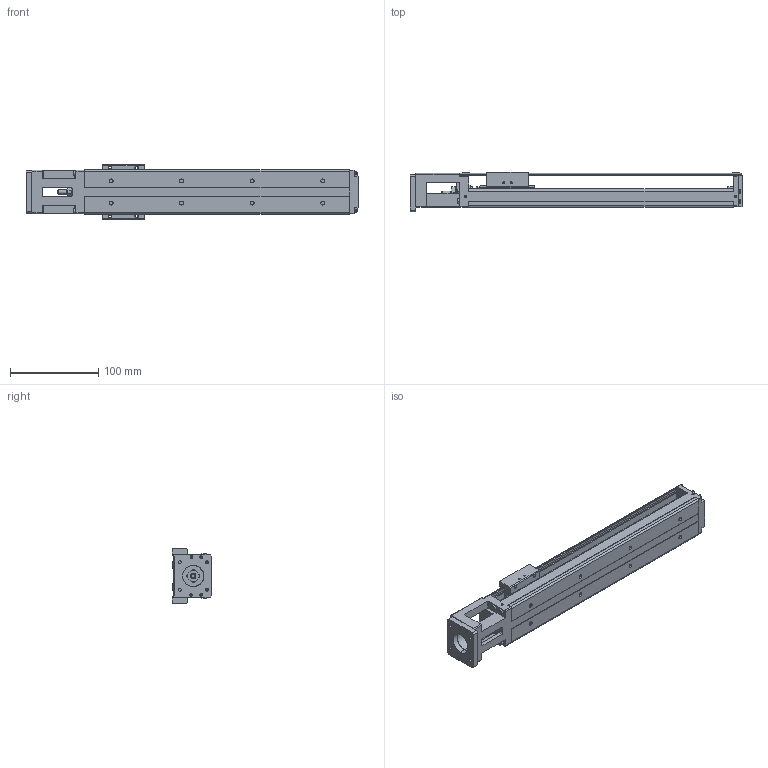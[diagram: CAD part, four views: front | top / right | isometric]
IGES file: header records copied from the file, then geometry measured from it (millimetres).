
Start section: SolidWorks IGES file using analytic representation for surfaces
Global section: file name: C:\Users\render\Documents\CAD Files\Integrated-Actuators\PA-Series\PA26\PA-26-300.IGS; native system: SolidWorks 2009; preprocessor: SolidWorks 2009; author: render; date: 100610.113350; units: millimetre
Bounding box: 376.5 x 45 x 62 mm (x, y, z)
Surface area: 142049.7 mm2 (no closed solid volume)
Topology: 0 solids, 0 shells, 758 faces, 10286 edges, 10244 vertices
Faces by surface type: revolution 427, bspline 331
